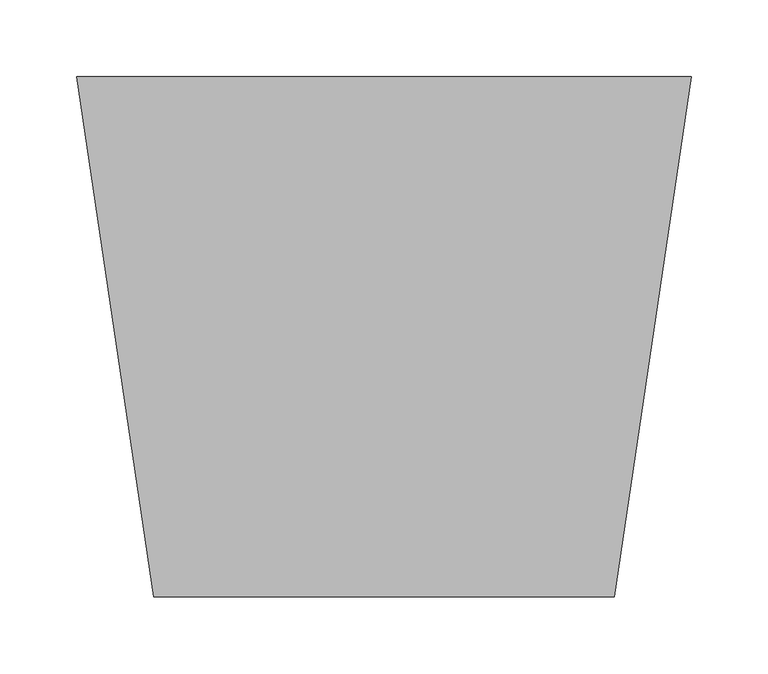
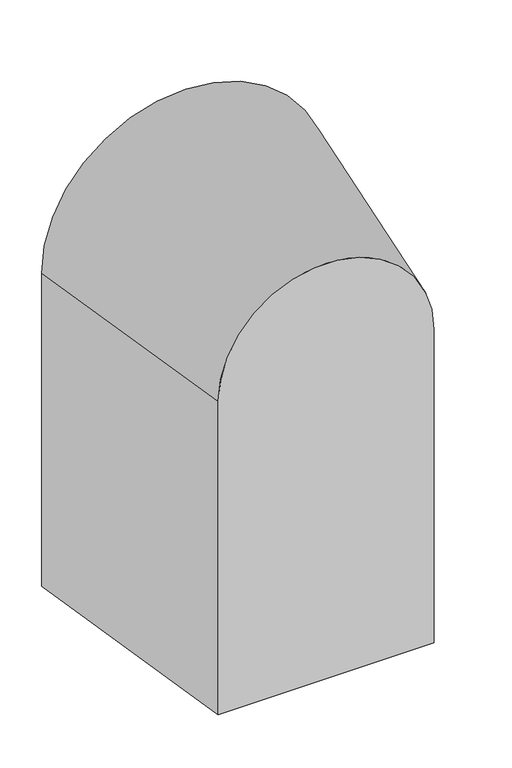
"""IFC4 building model written with IfcOpenShell, lengths in millimetres: flow terminal geometry, Sanitary_Toilets_Zeppelin-Rental-GmbH : Sanitary_Toilets_Zeppelin-Rental-GmbH."""

from ifc_helpers import new_model, si_unit, frame, origin, place, context, project, spatial, polyline, circle_curve, source, transform, mapped, element, save
from ifc_brep_helpers import plane_surface, revolved_surface, advanced_brep


def flow_terminal_0f2f1a41(model_context):
    return source(origin(), model_context, "Body", "AdvancedBrep", [
        advanced_brep(
        [(-150.0, -338.831098, 0.0), (150.0, -338.831098, 0.0), (150.0, -338.831098, 460.0), (-150.0, -338.831098, 460.0), (-200.0, 0.0, 0.0), (-200.0, 0.0, 460.0), (200.0, 0.0, 460.0), (200.0, 0.0, 0.0)],
        [
            (0, 1),
            (1, 2),
            (2, 3, circle_curve(frame((0.0, -338.831098, 460.0), z_axis=(0.0, -1.0, 0.0), x_axis=(1.0, 0.0, 0.0)), 150.0)),
            (3, 0),
            (4, 5),
            (5, 6, circle_curve(frame((0.0, 0.0, 460.0), z_axis=(0.0, 1.0, 0.0), x_axis=(1.0, 0.0, 0.0)), 200.0)),
            (6, 7),
            (7, 4),
            (7, 1),
            (0, 4),
            (6, 2),
            (5, 3),
        ],
        [
            plane_surface(frame((0.0, -338.831098, 230.0), z_axis=(0.0, -1.0, 0.0), x_axis=(1.0, 0.0, 0.0))),
            plane_surface(frame((0.0, 0.0, 230.0), z_axis=(0.0, 1.0, 0.0), x_axis=(1.0, 0.0, 0.0))),
            plane_surface(frame((0.0, 0.0, 0.0), z_axis=(0.0, 0.0, -1.0), x_axis=(1.0, 0.0, 0.0))),
            plane_surface(frame((200.0, 0.0, 230.0), z_axis=(0.9892867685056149, -0.14598523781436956, 0.0), x_axis=(0.0, 0.0, 1.0))),
            revolved_surface(polyline([(150.00000000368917, -338.831098, 460.0), (200.0, 0.0, 460.0)]), (0.0, -1355.3243921, 460.0), (0.0, 1.0, 0.0)),
            plane_surface(frame((-200.0, 0.0, 230.0), z_axis=(-0.9892867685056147, -0.14598523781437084, 0.0), x_axis=(0.0, 0.0, -1.0))),
        ],
        [
            (0, [[1, 2, 3, 4]]),
            (1, [[5, 6, 7, 8]]),
            (2, [[-8, 9, -1, 10]]),
            (3, [[-7, 11, -2, -9]]),
            (4, [[-6, 12, -3, -11]]),
            (5, [[-5, -10, -4, -12]]),
        ],
    ),
    ])


if __name__ == "__main__":
    model = new_model("IFC4")
    model_context = context("Model", 3, world=origin())
    ifc_project = project(units=[si_unit("LENGTHUNIT", "METRE", prefix="MILLI")], contexts=[model_context])
    site = spatial("IfcSite", under=ifc_project)
    building = spatial("IfcBuilding", under=site)
    placement = place(None, origin())
    flow_terminal_shape = flow_terminal_0f2f1a41(model_context)
    element("IfcFlowTerminal", 1, ObjectType="Sanitary_Toilets_Zeppelin-Rental-GmbH : Sanitary_Toilets_Zeppelin-Rental-GmbH", at=placement, inside=building, context=model_context, shape_type="MappedRepresentation", body=[
        mapped(flow_terminal_shape, transform((0.0, 0.0, 0.0), x_axis=(1.0, 0.0, 0.0), y_axis=(0.0, 1.0, 0.0), z_axis=(0.0, 0.0, 1.0))),
    ])
    save(model, "model.ifc")
